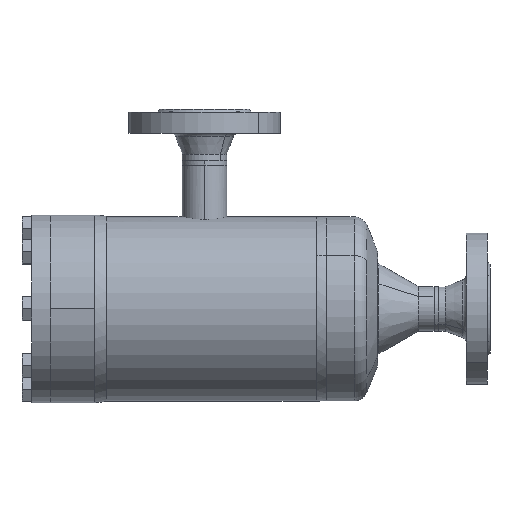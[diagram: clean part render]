
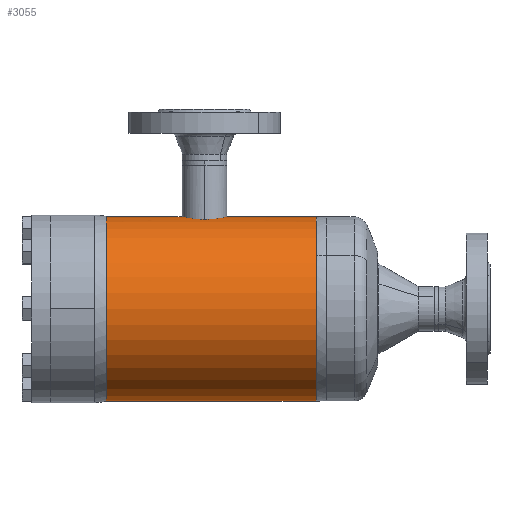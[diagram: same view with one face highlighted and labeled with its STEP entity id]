
A CAD part, left-side view. The second image highlights one B-rep face of the part: STEP entity #3055.
In plain terms, the highlighted cylindrical face has radius 69.85 mm (diameter 139.7 mm), a partial arc.
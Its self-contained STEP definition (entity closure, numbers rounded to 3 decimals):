
#97 = ORIENTED_EDGE ( 'NONE', *, *, #13695, .F. ) ;
#597 = ORIENTED_EDGE ( 'NONE', *, *, #5406, .F. ) ;
#684 = CIRCLE ( 'NONE', #685, 69.85 ) ;
#685 = AXIS2_PLACEMENT_3D ( 'NONE', #686, #687, #688 ) ;
#686 = CARTESIAN_POINT ( 'NONE',  ( 0., 162.478, 0. ) ) ;
#687 = DIRECTION ( 'NONE',  ( 0., -1., 0. ) ) ;
#688 = DIRECTION ( 'NONE',  ( 0., 0., -1. ) ) ;
#1312 = EDGE_CURVE ( 'NONE', #5089, #4807, #12472, .T. ) ;
#2178 = CARTESIAN_POINT ( 'NONE',  ( 0., 3.522, -69.85 ) ) ;
#2369 = CARTESIAN_POINT ( 'NONE',  ( 0., 3.522, 69.85 ) ) ;
#2780 = LINE ( 'NONE', #2781, #2782 ) ;
#2781 = CARTESIAN_POINT ( 'NONE',  ( 0., 0., 69.85 ) ) ;
#2782 = VECTOR ( 'NONE', #2783, 1000. ) ;
#2783 = DIRECTION ( 'NONE',  ( 0., -1., 0. ) ) ;
#2893 = EDGE_LOOP ( 'NONE', ( #11152, #11052, #14311, #3909, #597, #97, #9433 ) ) ;
#3015 = CARTESIAN_POINT ( 'NONE',  ( 0., 102.75, 69.85 ) ) ;
#3055 = ADVANCED_FACE ( 'NONE', ( #14674 ), #14675, .T. ) ;
#3760 = CARTESIAN_POINT ( 'NONE',  ( 0., 162.478, 69.85 ) ) ;
#3909 = ORIENTED_EDGE ( 'NONE', *, *, #1312, .F. ) ;
#4807 = VERTEX_POINT ( 'NONE', #2178 ) ;
#5089 = VERTEX_POINT ( 'NONE', #2369 ) ;
#5406 = EDGE_CURVE ( 'NONE', #13957, #5089, #2780, .T. ) ;
#6829 = B_SPLINE_CURVE_WITH_KNOTS ( 'NONE', 3,
 ( #6830, #6831, #6832, #6833, #6834, #6835, #6836, #6837, #6838, #6839, #6840, #6841, #6842, #6844, #6845, #6846, #6847, #6848, #6849, #6850, #6851, #6852, #6853, #6854, #6855, #6856, #6857, #6858 ),
 .UNSPECIFIED., .F., .F.,
 ( 4, 2, 2, 2, 2, 2, 2, 2, 2, 2, 2, 2, 2, 4 ),
 ( 0.046, 0.049, 0.051, 0.052, 0.053, 0.055, 0.058, 0.059, 0.061, 0.064, 0.065, 0.066, 0.068, 0.069 ),
 .UNSPECIFIED. ) ;
#6830 = CARTESIAN_POINT ( 'NONE',  ( -14.75, 88., 68.275 ) ) ;
#6831 = CARTESIAN_POINT ( 'NONE',  ( -14.75, 87.036, 68.275 ) ) ;
#6832 = CARTESIAN_POINT ( 'NONE',  ( -14.656, 86.076, 68.295 ) ) ;
#6833 = CARTESIAN_POINT ( 'NONE',  ( -14.371, 84.641, 68.356 ) ) ;
#6834 = CARTESIAN_POINT ( 'NONE',  ( -14.252, 84.169, 68.381 ) ) ;
#6835 = CARTESIAN_POINT ( 'NONE',  ( -13.971, 83.246, 68.439 ) ) ;
#6836 = CARTESIAN_POINT ( 'NONE',  ( -13.809, 82.793, 68.472 ) ) ;
#6837 = CARTESIAN_POINT ( 'NONE',  ( -13.44, 81.905, 68.545 ) ) ;
#6838 = CARTESIAN_POINT ( 'NONE',  ( -13.235, 81.47, 68.585 ) ) ;
#6839 = CARTESIAN_POINT ( 'NONE',  ( -12.778, 80.617, 68.672 ) ) ;
#6840 = CARTESIAN_POINT ( 'NONE',  ( -12.527, 80.198, 68.718 ) ) ;
#6841 = CARTESIAN_POINT ( 'NONE',  ( -11.722, 78.995, 68.862 ) ) ;
#6842 = CARTESIAN_POINT ( 'NONE',  ( -11.113, 78.254, 68.964 ) ) ;
#6844 = CARTESIAN_POINT ( 'NONE',  ( -10.094, 77.234, 69.118 ) ) ;
#6845 = CARTESIAN_POINT ( 'NONE',  ( -9.734, 76.908, 69.169 ) ) ;
#6846 = CARTESIAN_POINT ( 'NONE',  ( -8.985, 76.292, 69.271 ) ) ;
#6847 = CARTESIAN_POINT ( 'NONE',  ( -8.598, 76.005, 69.32 ) ) ;
#6848 = CARTESIAN_POINT ( 'NONE',  ( -7.4, 75.205, 69.462 ) ) ;
#6849 = CARTESIAN_POINT ( 'NONE',  ( -6.554, 74.751, 69.548 ) ) ;
#6850 = CARTESIAN_POINT ( 'NONE',  ( -5.211, 74.193, 69.657 ) ) ;
#6851 = CARTESIAN_POINT ( 'NONE',  ( -4.75, 74.028, 69.69 ) ) ;
#6852 = CARTESIAN_POINT ( 'NONE',  ( -3.826, 73.747, 69.747 ) ) ;
#6853 = CARTESIAN_POINT ( 'NONE',  ( -3.358, 73.629, 69.771 ) ) ;
#6854 = CARTESIAN_POINT ( 'NONE',  ( -2.415, 73.441, 69.81 ) ) ;
#6855 = CARTESIAN_POINT ( 'NONE',  ( -1.938, 73.37, 69.825 ) ) ;
#6856 = CARTESIAN_POINT ( 'NONE',  ( -0.976, 73.274, 69.845 ) ) ;
#6857 = CARTESIAN_POINT ( 'NONE',  ( -0.487, 73.25, 69.85 ) ) ;
#6858 = CARTESIAN_POINT ( 'NONE',  ( 0., 73.25, 69.85 ) ) ;
#7479 = CARTESIAN_POINT ( 'NONE',  ( 0., 73.25, 69.85 ) ) ;
#7480 = LINE ( 'NONE', #7481, #7482 ) ;
#7481 = CARTESIAN_POINT ( 'NONE',  ( 0., 0., -69.85 ) ) ;
#7482 = VECTOR ( 'NONE', #7483, 1000. ) ;
#7483 = DIRECTION ( 'NONE',  ( 0., -1., 0. ) ) ;
#8337 = B_SPLINE_CURVE_WITH_KNOTS ( 'NONE', 3,
 ( #8338, #8342, #8343, #8344, #8345, #8346, #8347, #8348, #8349, #8350, #8351, #8352, #8353, #8354, #8355, #8356, #8357, #8358, #8359, #8360, #8361, #8362, #8363, #8364, #8365, #8366, #8367, #8368 ),
 .UNSPECIFIED., .F., .F.,
 ( 4, 2, 2, 2, 2, 2, 2, 2, 2, 2, 2, 2, 2, 4 ),
 ( 0.023, 0.025, 0.026, 0.029, 0.03, 0.032, 0.033, 0.035, 0.038, 0.039, 0.04, 0.043, 0.045, 0.046 ),
 .UNSPECIFIED. ) ;
#8338 = CARTESIAN_POINT ( 'NONE',  ( 0., 102.75, 69.85 ) ) ;
#8342 = CARTESIAN_POINT ( 'NONE',  ( -0.482, 102.75, 69.85 ) ) ;
#8343 = CARTESIAN_POINT ( 'NONE',  ( -0.966, 102.726, 69.845 ) ) ;
#8344 = CARTESIAN_POINT ( 'NONE',  ( -1.938, 102.63, 69.825 ) ) ;
#8345 = CARTESIAN_POINT ( 'NONE',  ( -2.419, 102.558, 69.81 ) ) ;
#8346 = CARTESIAN_POINT ( 'NONE',  ( -3.839, 102.274, 69.751 ) ) ;
#8347 = CARTESIAN_POINT ( 'NONE',  ( -4.759, 101.995, 69.693 ) ) ;
#8348 = CARTESIAN_POINT ( 'NONE',  ( -6.101, 101.438, 69.585 ) ) ;
#8349 = CARTESIAN_POINT ( 'NONE',  ( -6.542, 101.229, 69.544 ) ) ;
#8350 = CARTESIAN_POINT ( 'NONE',  ( -7.394, 100.772, 69.459 ) ) ;
#8351 = CARTESIAN_POINT ( 'NONE',  ( -7.805, 100.525, 69.414 ) ) ;
#8352 = CARTESIAN_POINT ( 'NONE',  ( -8.603, 99.991, 69.319 ) ) ;
#8353 = CARTESIAN_POINT ( 'NONE',  ( -8.988, 99.705, 69.27 ) ) ;
#8354 = CARTESIAN_POINT ( 'NONE',  ( -9.731, 99.095, 69.17 ) ) ;
#8355 = CARTESIAN_POINT ( 'NONE',  ( -10.091, 98.769, 69.118 ) ) ;
#8356 = CARTESIAN_POINT ( 'NONE',  ( -11.118, 97.741, 68.963 ) ) ;
#8357 = CARTESIAN_POINT ( 'NONE',  ( -11.726, 96.999, 68.861 ) ) ;
#8358 = CARTESIAN_POINT ( 'NONE',  ( -12.526, 95.803, 68.718 ) ) ;
#8359 = CARTESIAN_POINT ( 'NONE',  ( -12.774, 95.39, 68.672 ) ) ;
#8360 = CARTESIAN_POINT ( 'NONE',  ( -13.232, 94.536, 68.586 ) ) ;
#8361 = CARTESIAN_POINT ( 'NONE',  ( -13.44, 94.095, 68.545 ) ) ;
#8362 = CARTESIAN_POINT ( 'NONE',  ( -13.995, 92.758, 68.435 ) ) ;
#8363 = CARTESIAN_POINT ( 'NONE',  ( -14.274, 91.839, 68.376 ) ) ;
#8364 = CARTESIAN_POINT ( 'NONE',  ( -14.559, 90.417, 68.316 ) ) ;
#8365 = CARTESIAN_POINT ( 'NONE',  ( -14.631, 89.933, 68.301 ) ) ;
#8366 = CARTESIAN_POINT ( 'NONE',  ( -14.726, 88.965, 68.28 ) ) ;
#8367 = CARTESIAN_POINT ( 'NONE',  ( -14.75, 88.482, 68.275 ) ) ;
#8368 = CARTESIAN_POINT ( 'NONE',  ( -14.75, 88., 68.275 ) ) ;
#8386 = CARTESIAN_POINT ( 'NONE',  ( 0., 162.478, -69.85 ) ) ;
#8665 = CARTESIAN_POINT ( 'NONE',  ( -14.75, 88., 68.275 ) ) ;
#9058 = LINE ( 'NONE', #9059, #9060 ) ;
#9059 = CARTESIAN_POINT ( 'NONE',  ( 0., 0., 69.85 ) ) ;
#9060 = VECTOR ( 'NONE', #9066, 1000. ) ;
#9066 = DIRECTION ( 'NONE',  ( 0., -1., 0. ) ) ;
#9133 = EDGE_CURVE ( 'NONE', #11273, #9414, #8337, .T. ) ;
#9172 = VERTEX_POINT ( 'NONE', #8386 ) ;
#9414 = VERTEX_POINT ( 'NONE', #8665 ) ;
#9433 = ORIENTED_EDGE ( 'NONE', *, *, #9133, .F. ) ;
#9755 = EDGE_CURVE ( 'NONE', #11579, #11273, #9058, .T. ) ;
#10993 = EDGE_CURVE ( 'NONE', #11579, #9172, #684, .T. ) ;
#11052 = ORIENTED_EDGE ( 'NONE', *, *, #10993, .T. ) ;
#11152 = ORIENTED_EDGE ( 'NONE', *, *, #9755, .F. ) ;
#11273 = VERTEX_POINT ( 'NONE', #3015 ) ;
#11579 = VERTEX_POINT ( 'NONE', #3760 ) ;
#12472 = CIRCLE ( 'NONE', #12476, 69.85 ) ;
#12476 = AXIS2_PLACEMENT_3D ( 'NONE', #12477, #12478, #12479 ) ;
#12477 = CARTESIAN_POINT ( 'NONE',  ( 0., 3.522, 0. ) ) ;
#12478 = DIRECTION ( 'NONE',  ( 0., -1., 0. ) ) ;
#12479 = DIRECTION ( 'NONE',  ( 0., 0., -1. ) ) ;
#13695 = EDGE_CURVE ( 'NONE', #9414, #13957, #6829, .T. ) ;
#13957 = VERTEX_POINT ( 'NONE', #7479 ) ;
#13975 = EDGE_CURVE ( 'NONE', #9172, #4807, #7480, .T. ) ;
#14311 = ORIENTED_EDGE ( 'NONE', *, *, #13975, .T. ) ;
#14674 = FACE_OUTER_BOUND ( 'NONE', #2893, .T. ) ;
#14675 = CYLINDRICAL_SURFACE ( 'NONE', #14676, 69.85 ) ;
#14676 = AXIS2_PLACEMENT_3D ( 'NONE', #14677, #14678, #14679 ) ;
#14677 = CARTESIAN_POINT ( 'NONE',  ( 0., 0., 0. ) ) ;
#14678 = DIRECTION ( 'NONE',  ( 0., -1., 0. ) ) ;
#14679 = DIRECTION ( 'NONE',  ( 0., 0., -1. ) ) ;
